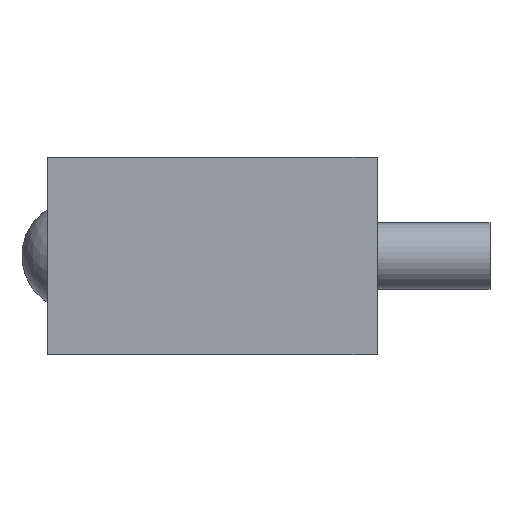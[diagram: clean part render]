
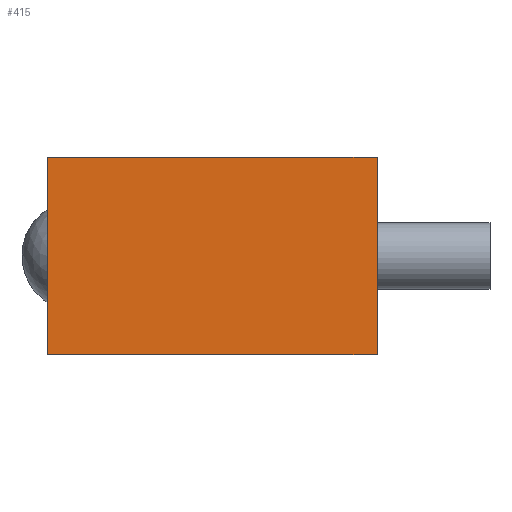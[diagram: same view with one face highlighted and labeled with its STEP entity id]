
A CAD part, left-side view. The second image highlights one B-rep face of the part: STEP entity #415.
In plain terms, the highlighted planar face has unit normal (-1, 0, 0).
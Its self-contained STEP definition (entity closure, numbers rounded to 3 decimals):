
#21=LINE('',#688,#37);
#27=LINE('',#703,#43);
#31=LINE('',#715,#47);
#33=LINE('',#718,#49);
#37=VECTOR('',#582,10.);
#43=VECTOR('',#592,10.);
#47=VECTOR('',#608,10.);
#49=VECTOR('',#612,10.);
#81=PLANE('',#489);
#110=FACE_OUTER_BOUND('',#158,.T.);
#158=EDGE_LOOP('',(#330,#331,#332,#333));
#208=VERTEX_POINT('',#686);
#209=VERTEX_POINT('',#687);
#215=VERTEX_POINT('',#700);
#216=VERTEX_POINT('',#702);
#243=EDGE_CURVE('',#208,#209,#21,.T.);
#250=EDGE_CURVE('',#215,#216,#27,.T.);
#256=EDGE_CURVE('',#216,#208,#31,.T.);
#258=EDGE_CURVE('',#209,#215,#33,.T.);
#330=ORIENTED_EDGE('',*,*,#250,.F.);
#331=ORIENTED_EDGE('',*,*,#258,.F.);
#332=ORIENTED_EDGE('',*,*,#243,.F.);
#333=ORIENTED_EDGE('',*,*,#256,.F.);
#415=ADVANCED_FACE('',(#110),#81,.T.);
#489=AXIS2_PLACEMENT_3D('',#717,#610,#611);
#582=DIRECTION('',(0.,0.,1.));
#592=DIRECTION('',(0.,0.,-1.));
#608=DIRECTION('',(0.,1.,0.));
#610=DIRECTION('center_axis',(-1.,0.,0.));
#611=DIRECTION('ref_axis',(0.,-1.,0.));
#612=DIRECTION('',(0.,-1.,0.));
#686=CARTESIAN_POINT('',(-160.,14.9,-8.9));
#687=CARTESIAN_POINT('',(-160.,14.9,8.9));
#688=CARTESIAN_POINT('',(-160.,14.9,0.));
#700=CARTESIAN_POINT('',(-160.,-14.9,8.9));
#702=CARTESIAN_POINT('',(-160.,-14.9,-8.9));
#703=CARTESIAN_POINT('',(-160.,-14.9,0.));
#715=CARTESIAN_POINT('',(-160.,14.9,-8.9));
#717=CARTESIAN_POINT('Origin',(-160.,14.9,0.));
#718=CARTESIAN_POINT('',(-160.,14.9,8.9));
